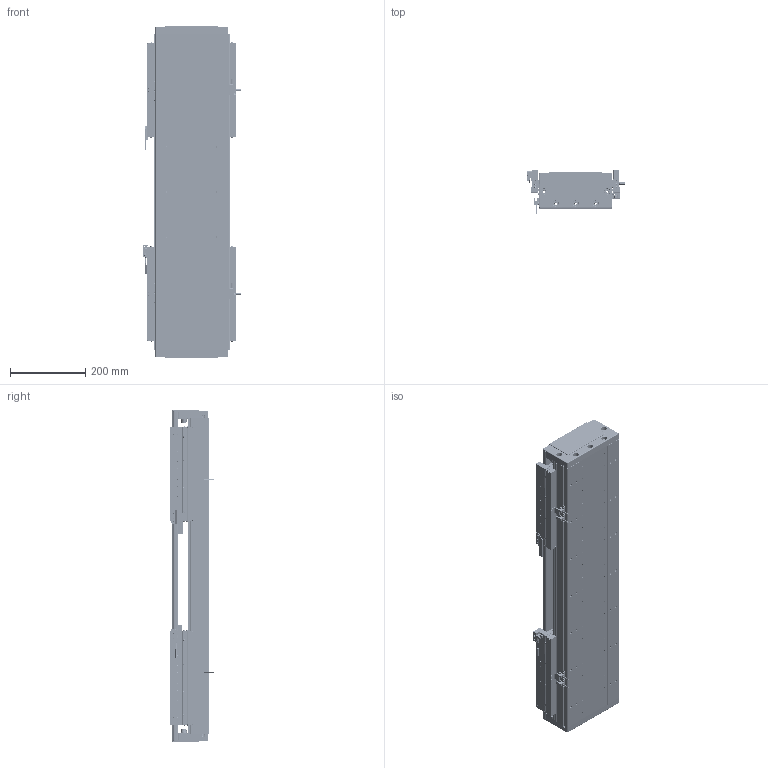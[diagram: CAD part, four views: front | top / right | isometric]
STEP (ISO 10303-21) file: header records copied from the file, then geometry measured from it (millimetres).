
FILE_DESCRIPTION (( 'STEP AP203' ), '1' );
FILE_NAME ('DA-C195-2-C3-T260-C010-0.2 眻盄萇儂.STEP', '2025-08-14T02:21:31', ( '' ), ( '' ), 'SwSTEP 2.0', 'SolidWorks 2019', '' );
FILE_SCHEMA (( 'CONFIG_CONTROL_DESIGN' ));
Length unit declared in the file: millimetre
Products named in the file (16): MS200 棠掑喜S315-T240; 葩璃 DA95-GT-T-00; DKW-KGZ-ZJ-00 中间光电开关支架; DA95-HXJ-00 遣喳砎蝶; PM-T45ㄗ侂狟ㄘ; LMT黍杅芛; IU-CU195-L 菁釱絳寢; CU195-C3賑輸-俋楷; DA-C195-2-C3-T260-C010-0.2 眻盄萇儂; DA165-GYP-00 光电感应片(默认); 66156-0001-003-00 裔啣; IU-CU195-L-00 菁釱(L840); DA195-DG-H-00  端盖（压铸镂空版）; DKW-GYP-ZJ-00 笢潔嫖萇覜茼え; DKW168-HXJ-ZJ-00 笢潔滅袉砎蝶; PM-Y65嫖萇羲壽郪璃
Assembly tree (28 placements, depth 3):
  DA-C195-2-C3-T260-C010-0.2 眻盄萇儂
    IU-CU195-L 菁釱絳寢
      IU-CU195-L-00 菁釱(L840)
      葩璃 DA95-GT-T-00  x4
    LMT黍杅芛  x2
    MS200 棠掑喜S315-T240
    PM-T45ㄗ侂狟ㄘ  x4
    DA165-GYP-00 光电感应片(默认)  x2
    DA195-DG-H-00  端盖（压铸镂空版）  x2
    DA95-HXJ-00 遣喳砎蝶  x4
    PM-Y65嫖萇羲壽郪璃
    66156-0001-003-00 裔啣
    DKW168-HXJ-ZJ-00 笢潔滅袉砎蝶
    DKW-GYP-ZJ-00 笢潔嫖萇覜茼え
    DKW-KGZ-ZJ-00 中间光电开关支架
    CU195-C3賑輸-俋楷  x2
Bounding box: 258.2 x 115.6 x 880 mm (x, y, z)
Volume: 8532468.3 mm3; surface area: 2289054.4 mm2
Topology: 146 solids, 218 shells, 7620 faces, 19072 edges, 11575 vertices
Faces by surface type: cylinder 3056, plane 2780, cone 914, bspline 718, torus 80, sphere 72
Entity records: 147357 total; most frequent: CARTESIAN_POINT 44238, ORIENTED_EDGE 21330, DIRECTION 20592, EDGE_CURVE 10665, AXIS2_PLACEMENT_3D 7491, VERTEX_POINT 6728, VECTOR 5610, LINE 5610
